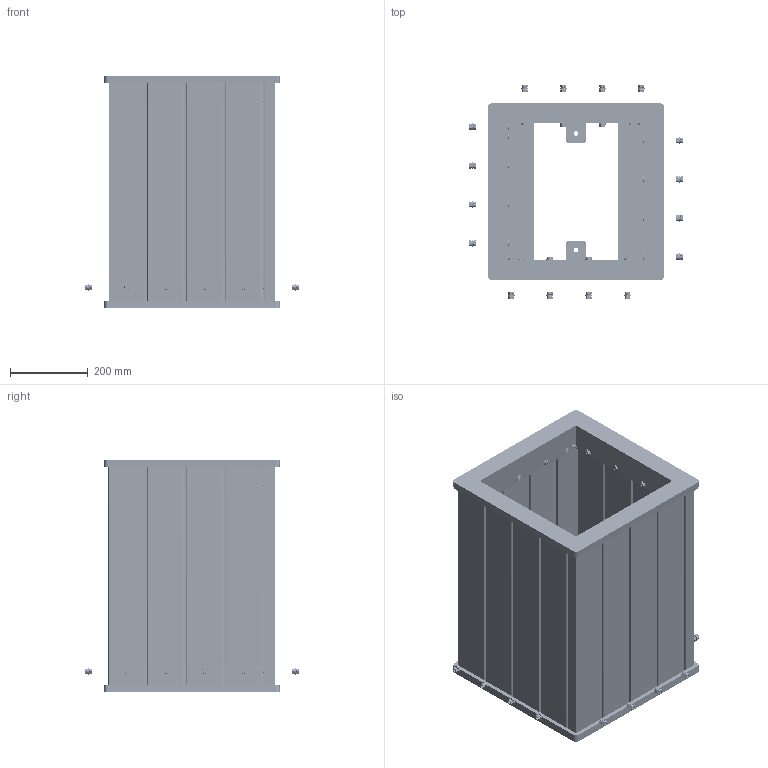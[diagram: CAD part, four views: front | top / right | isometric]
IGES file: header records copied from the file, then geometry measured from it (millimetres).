
Global section: file name: 04ガベージボックスGB01(内箱なし),35HAutoCAD 2024 - 日本語 (; native system: Japanese); preprocessor: Autodesk Translation Framework DWG producer (atf_dwg_producer); organization: unknown; date: 20250212.183713; units: millimetre
Bounding box: 551.51 x 551.87 x 600 mm (x, y, z)
Volume: 31878363.1 mm3; surface area: 7955343.9 mm2
Topology: 368 solids, 368 shells, 4431 faces, 10487 edges, 6939 vertices
Faces by surface type: bspline 4399, revolution 32
